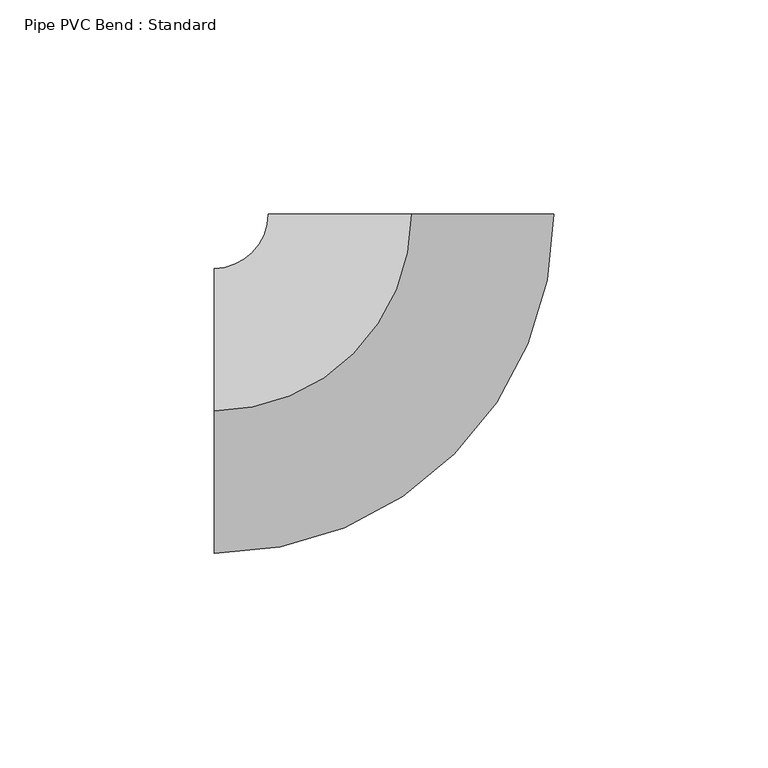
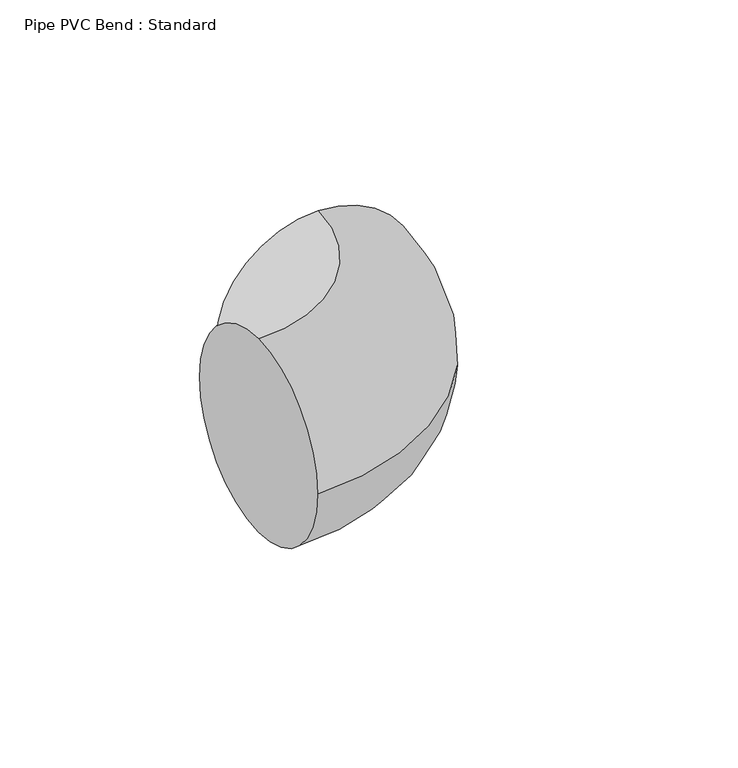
"""IFC4 building model written with IfcOpenShell, lengths in millimetres: pipe fitting geometry, Pipe PVC Bend : Standard."""

from ifc_helpers import new_model, si_unit, point, frame, origin, place, context, project, spatial, circle_curve, ellipse_curve, trimmed, source, transform, mapped, element, save
from ifc_brep_helpers import plane_surface, revolved_surface, advanced_brep


def pipe_pvc_bend_standard_2534c646(model_context):
    return source(origin(), model_context, "Body", "AdvancedBrep", [
        advanced_brep(
        [(-46.0674317, 0.0, 33.3375), (-46.0674317, 33.3375, 0.0), (-46.0674317, 0.0, -33.3375), (-46.0674317, -33.3375, 0.0), (-0.0299414, 46.067422, 33.3375), (33.3075515, 46.0890896, 0.0), (-0.0299414, 46.067422, -33.3375), (-33.3674344, 46.0457543, 0.0)],
        [
            (0, 1, circle_curve(frame((-46.0674317, 0.0, 0.0), z_axis=(-1.0, 0.0, 0.0), x_axis=(0.0, 1.0, 0.0)), 33.3375)),
            (1, 2, circle_curve(frame((-46.0674317, 0.0, 0.0), z_axis=(-1.0, 0.0, 0.0), x_axis=(0.0, 1.0, 0.0)), 33.3375)),
            (2, 3, circle_curve(frame((-46.0674317, 0.0, 0.0), z_axis=(-1.0, 0.0, 0.0), x_axis=(0.0, 1.0, 0.0)), 33.3375)),
            (3, 0, circle_curve(frame((-46.0674317, 0.0, 0.0), z_axis=(-1.0, 0.0, 0.0), x_axis=(0.0, 1.0, 0.0)), 33.3375)),
            (4, 5, circle_curve(frame((-0.0299414, 46.067422, 0.0), z_axis=(-0.0006499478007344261, 0.9999997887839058, 0.0), x_axis=(-0.9999997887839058, -0.0006499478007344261, 0.0)), 33.3375)),
            (5, 6, circle_curve(frame((-0.0299414, 46.067422, 0.0), z_axis=(-0.0006499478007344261, 0.9999997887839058, 0.0), x_axis=(-0.9999997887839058, -0.0006499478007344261, 0.0)), 33.3375)),
            (6, 7, circle_curve(frame((-0.0299414, 46.067422, 0.0), z_axis=(-0.0006499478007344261, 0.9999997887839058, 0.0), x_axis=(-0.9999997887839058, -0.0006499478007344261, 0.0)), 33.3375)),
            (7, 4, circle_curve(frame((-0.0299414, 46.067422, 0.0), z_axis=(-0.0006499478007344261, 0.9999997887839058, 0.0), x_axis=(-0.9999997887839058, -0.0006499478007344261, 0.0)), 33.3375)),
            (7, 1, circle_curve(frame((-46.0674317, 46.0375, 0.0), z_axis=(0.0, 0.0, -1.0), x_axis=(0.0, -1.0, 0.0)), 12.7)),
            (0, 4, circle_curve(frame((-46.0674317, 46.0375, 33.3375), z_axis=(0.0, 0.0, 1.0), x_axis=(0.0, -1.0, 0.0)), 46.0375)),
            (6, 2, circle_curve(frame((-46.0674317, 46.0375, -33.3375), z_axis=(0.0, 0.0, -1.0), x_axis=(0.0, -1.0, 0.0)), 46.0375)),
            (5, 3, circle_curve(frame((-46.0674317, 46.0375, 0.0), z_axis=(0.0, 0.0, -1.0), x_axis=(0.0, -1.0, 0.0)), 79.375)),
        ],
        [
            plane_surface(frame((-46.0674317, 0.0, 0.0), z_axis=(-1.0, 0.0, 0.0), x_axis=(0.0, 0.0, 1.0))),
            plane_surface(frame((-0.0299414, 46.067422, 0.0), z_axis=(-0.0006499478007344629, 0.9999997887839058, 0.0), x_axis=(0.0, 0.0, 1.0))),
            revolved_surface(trimmed(ellipse_curve(frame((-46.0674317, 0.0, 0.0), z_axis=(-1.0, 0.0, 0.0), x_axis=(0.0, 1.0, 0.0)), 33.3375, 33.3375), [point((-46.0674317, 0.0, 33.3375))], [point((-46.0674317, 33.3375, 0.0))], True, "CARTESIAN"), (-46.0674317, 46.0375, 0.0), (0.0, 0.0, 1.0)),
            revolved_surface(trimmed(ellipse_curve(frame((-46.0674317, 0.0, 0.0), z_axis=(-1.0, 0.0, 0.0), x_axis=(0.0, 1.0, 0.0)), 33.3375, 33.3375), [point((-46.0674317, 33.3375, 0.0))], [point((-46.0674317, 0.0, -33.3375))], True, "CARTESIAN"), (-46.0674317, 46.0375, 0.0), (0.0, 0.0, 1.0)),
            revolved_surface(trimmed(ellipse_curve(frame((-46.0674317, 0.0, 0.0), z_axis=(-1.0, 0.0, 0.0), x_axis=(0.0, 1.0, 0.0)), 33.3375, 33.3375), [point((-46.0674317, 0.0, -33.3375))], [point((-46.0674317, -33.3375, 0.0))], True, "CARTESIAN"), (-46.0674317, 46.0375, 0.0), (0.0, 0.0, 1.0)),
            revolved_surface(trimmed(ellipse_curve(frame((-46.0674317, 0.0, 0.0), z_axis=(-1.0, 0.0, 0.0), x_axis=(0.0, 1.0, 0.0)), 33.3375, 33.3375), [point((-46.0674317, -33.3375, 0.0))], [point((-46.0674317, 0.0, 33.3375))], True, "CARTESIAN"), (-46.0674317, 46.0375, 0.0), (0.0, 0.0, 1.0)),
        ],
        [
            (0, [[1, 2, 3, 4]]),
            (1, [[5, 6, 7, 8]]),
            (2, [[9, -1, 10, -8]]),
            (3, [[11, -2, -9, -7]]),
            (4, [[12, -3, -11, -6]]),
            (5, [[-10, -4, -12, -5]]),
        ],
    ),
        advanced_brep(
        [(-46.0674317, 0.0, 33.3375), (-46.0674317, 33.3375, 0.0), (-46.0674317, 0.0, -33.3375), (-46.0674317, -33.3375, 0.0), (-0.0299414, 46.067422, 33.3375), (33.3075515, 46.0890896, 0.0), (-0.0299414, 46.067422, -33.3375), (-33.3674344, 46.0457543, 0.0)],
        [
            (0, 1, circle_curve(frame((-46.0674317, 0.0, 0.0), z_axis=(-1.0, 0.0, 0.0), x_axis=(0.0, 1.0, 0.0)), 33.3375)),
            (1, 2, circle_curve(frame((-46.0674317, 0.0, 0.0), z_axis=(-1.0, 0.0, 0.0), x_axis=(0.0, 1.0, 0.0)), 33.3375)),
            (2, 3, circle_curve(frame((-46.0674317, 0.0, 0.0), z_axis=(-1.0, 0.0, 0.0), x_axis=(0.0, 1.0, 0.0)), 33.3375)),
            (3, 0, circle_curve(frame((-46.0674317, 0.0, 0.0), z_axis=(-1.0, 0.0, 0.0), x_axis=(0.0, 1.0, 0.0)), 33.3375)),
            (4, 5, circle_curve(frame((-0.0299414, 46.067422, 0.0), z_axis=(-0.0006499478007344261, 0.9999997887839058, 0.0), x_axis=(-0.9999997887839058, -0.0006499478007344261, 0.0)), 33.3375)),
            (5, 6, circle_curve(frame((-0.0299414, 46.067422, 0.0), z_axis=(-0.0006499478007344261, 0.9999997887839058, 0.0), x_axis=(-0.9999997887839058, -0.0006499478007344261, 0.0)), 33.3375)),
            (6, 7, circle_curve(frame((-0.0299414, 46.067422, 0.0), z_axis=(-0.0006499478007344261, 0.9999997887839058, 0.0), x_axis=(-0.9999997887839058, -0.0006499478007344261, 0.0)), 33.3375)),
            (7, 4, circle_curve(frame((-0.0299414, 46.067422, 0.0), z_axis=(-0.0006499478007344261, 0.9999997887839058, 0.0), x_axis=(-0.9999997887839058, -0.0006499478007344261, 0.0)), 33.3375)),
            (7, 1, circle_curve(frame((-46.0674317, 46.0375, 0.0), z_axis=(0.0, 0.0, -1.0), x_axis=(0.0, -1.0, 0.0)), 12.7)),
            (0, 4, circle_curve(frame((-46.0674317, 46.0375, 33.3375), z_axis=(0.0, 0.0, 1.0), x_axis=(0.0, -1.0, 0.0)), 46.0375)),
            (6, 2, circle_curve(frame((-46.0674317, 46.0375, -33.3375), z_axis=(0.0, 0.0, -1.0), x_axis=(0.0, -1.0, 0.0)), 46.0375)),
            (5, 3, circle_curve(frame((-46.0674317, 46.0375, 0.0), z_axis=(0.0, 0.0, -1.0), x_axis=(0.0, -1.0, 0.0)), 79.375)),
        ],
        [
            plane_surface(frame((-46.0674317, 0.0, 0.0), z_axis=(-1.0, 0.0, 0.0), x_axis=(0.0, 0.0, 1.0))),
            plane_surface(frame((-0.0299414, 46.067422, 0.0), z_axis=(-0.0006499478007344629, 0.9999997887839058, 0.0), x_axis=(0.0, 0.0, 1.0))),
            revolved_surface(trimmed(ellipse_curve(frame((-46.0674317, 0.0, 0.0), z_axis=(-1.0, 0.0, 0.0), x_axis=(0.0, 1.0, 0.0)), 33.3375, 33.3375), [point((-46.0674317, 0.0, 33.3375))], [point((-46.0674317, 33.3375, 0.0))], True, "CARTESIAN"), (-46.0674317, 46.0375, 0.0), (0.0, 0.0, 1.0)),
            revolved_surface(trimmed(ellipse_curve(frame((-46.0674317, 0.0, 0.0), z_axis=(-1.0, 0.0, 0.0), x_axis=(0.0, 1.0, 0.0)), 33.3375, 33.3375), [point((-46.0674317, 33.3375, 0.0))], [point((-46.0674317, 0.0, -33.3375))], True, "CARTESIAN"), (-46.0674317, 46.0375, 0.0), (0.0, 0.0, 1.0)),
            revolved_surface(trimmed(ellipse_curve(frame((-46.0674317, 0.0, 0.0), z_axis=(-1.0, 0.0, 0.0), x_axis=(0.0, 1.0, 0.0)), 33.3375, 33.3375), [point((-46.0674317, 0.0, -33.3375))], [point((-46.0674317, -33.3375, 0.0))], True, "CARTESIAN"), (-46.0674317, 46.0375, 0.0), (0.0, 0.0, 1.0)),
            revolved_surface(trimmed(ellipse_curve(frame((-46.0674317, 0.0, 0.0), z_axis=(-1.0, 0.0, 0.0), x_axis=(0.0, 1.0, 0.0)), 33.3375, 33.3375), [point((-46.0674317, -33.3375, 0.0))], [point((-46.0674317, 0.0, 33.3375))], True, "CARTESIAN"), (-46.0674317, 46.0375, 0.0), (0.0, 0.0, 1.0)),
        ],
        [
            (0, [[1, 2, 3, 4]]),
            (1, [[5, 6, 7, 8]]),
            (2, [[9, -1, 10, -8]]),
            (3, [[11, -2, -9, -7]]),
            (4, [[12, -3, -11, -6]]),
            (5, [[-10, -4, -12, -5]]),
        ],
    ),
    ])


if __name__ == "__main__":
    model = new_model("IFC4")
    model_context = context("Model", 3, world=origin())
    ifc_project = project(units=[si_unit("LENGTHUNIT", "METRE", prefix="MILLI")], contexts=[model_context])
    site = spatial("IfcSite", under=ifc_project)
    building = spatial("IfcBuilding", under=site)
    placement = place(None, origin())
    pipe_pvc_bend_standard_shape = pipe_pvc_bend_standard_2534c646(model_context)
    element("IfcPipeFitting", 1, ObjectType="Pipe PVC Bend : Standard", at=placement, inside=building, context=model_context, shape_type="MappedRepresentation", body=[
        mapped(pipe_pvc_bend_standard_shape, transform((0.0, 0.0, 0.0), x_axis=(1.0, 0.0, 0.0), y_axis=(0.0, 1.0, 0.0), z_axis=(0.0, 0.0, 1.0))),
    ])
    save(model, "model.ifc")
